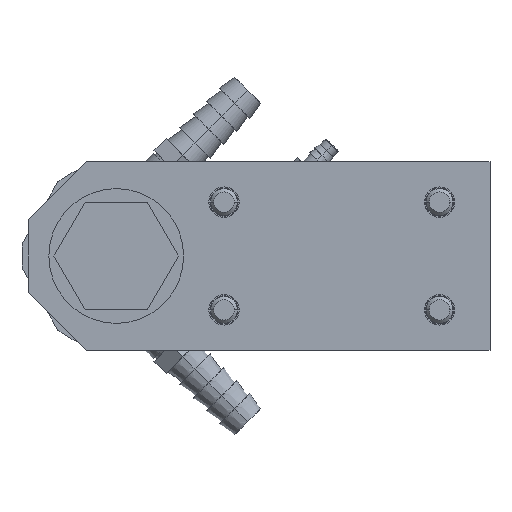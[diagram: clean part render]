
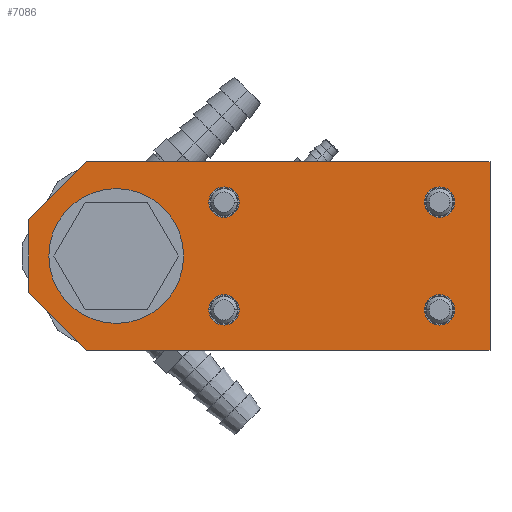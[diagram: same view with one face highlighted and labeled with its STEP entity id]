
A CAD part, left-side view. The second image highlights one B-rep face of the part: STEP entity #7086.
In plain terms, the highlighted planar face has unit normal (-1, 0, 0).
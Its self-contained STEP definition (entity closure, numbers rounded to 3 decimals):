
#6544=CARTESIAN_POINT('',(-3.312,-0.625,0.));
#6545=VERTEX_POINT('',#6544);
#6561=CARTESIAN_POINT('',(-3.312,0.625,0.));
#6562=VERTEX_POINT('',#6561);
#6569=CARTESIAN_POINT('',(-3.312,0.,0.));
#6570=DIRECTION('',(1.0,0.0,0.0));
#6571=DIRECTION('',(0.0,-1.0,0.0));
#6572=AXIS2_PLACEMENT_3D('',#6569,#6570,#6571);
#6573=CIRCLE('',#6572,0.625);
#6574=EDGE_CURVE('',#6545,#6562,#6573,.T.);
#6584=CARTESIAN_POINT('',(-3.312,-1.141,0.5));
#6585=VERTEX_POINT('',#6584);
#6594=CARTESIAN_POINT('',(-3.312,-0.859,0.5));
#6595=VERTEX_POINT('',#6594);
#6596=CARTESIAN_POINT('',(-3.312,-1.0,0.5));
#6597=DIRECTION('',(1.0,0.0,0.0));
#6598=DIRECTION('',(0.0,-1.0,0.0));
#6599=AXIS2_PLACEMENT_3D('',#6596,#6597,#6598);
#6600=CIRCLE('',#6599,0.141);
#6601=EDGE_CURVE('',#6595,#6585,#6600,.T.);
#6626=CARTESIAN_POINT('',(-3.312,-3.141,0.5));
#6627=VERTEX_POINT('',#6626);
#6636=CARTESIAN_POINT('',(-3.312,-2.859,0.5));
#6637=VERTEX_POINT('',#6636);
#6638=CARTESIAN_POINT('',(-3.312,-3.0,0.5));
#6639=DIRECTION('',(1.0,0.0,0.0));
#6640=DIRECTION('',(0.0,-1.0,0.0));
#6641=AXIS2_PLACEMENT_3D('',#6638,#6639,#6640);
#6642=CIRCLE('',#6641,0.141);
#6643=EDGE_CURVE('',#6637,#6627,#6642,.T.);
#6668=CARTESIAN_POINT('',(-3.312,-3.141,-0.5));
#6669=VERTEX_POINT('',#6668);
#6678=CARTESIAN_POINT('',(-3.312,-2.859,-0.5));
#6679=VERTEX_POINT('',#6678);
#6680=CARTESIAN_POINT('',(-3.312,-3.0,-0.5));
#6681=DIRECTION('',(1.0,0.0,0.0));
#6682=DIRECTION('',(0.0,-1.0,0.0));
#6683=AXIS2_PLACEMENT_3D('',#6680,#6681,#6682);
#6684=CIRCLE('',#6683,0.141);
#6685=EDGE_CURVE('',#6679,#6669,#6684,.T.);
#6710=CARTESIAN_POINT('',(-3.312,-1.141,-0.5));
#6711=VERTEX_POINT('',#6710);
#6720=CARTESIAN_POINT('',(-3.312,-0.859,-0.5));
#6721=VERTEX_POINT('',#6720);
#6722=CARTESIAN_POINT('',(-3.312,-1.0,-0.5));
#6723=DIRECTION('',(1.0,0.0,0.0));
#6724=DIRECTION('',(0.0,-1.0,0.0));
#6725=AXIS2_PLACEMENT_3D('',#6722,#6723,#6724);
#6726=CIRCLE('',#6725,0.141);
#6727=EDGE_CURVE('',#6721,#6711,#6726,.T.);
#6761=CARTESIAN_POINT('',(-3.312,-1.0,-0.5));
#6762=DIRECTION('',(1.0,0.0,0.0));
#6763=DIRECTION('',(0.0,-1.0,0.0));
#6764=AXIS2_PLACEMENT_3D('',#6761,#6762,#6763);
#6765=CIRCLE('',#6764,0.141);
#6766=EDGE_CURVE('',#6711,#6721,#6765,.T.);
#6785=CARTESIAN_POINT('',(-3.312,-3.0,-0.5));
#6786=DIRECTION('',(1.0,0.0,0.0));
#6787=DIRECTION('',(0.0,-1.0,0.0));
#6788=AXIS2_PLACEMENT_3D('',#6785,#6786,#6787);
#6789=CIRCLE('',#6788,0.141);
#6790=EDGE_CURVE('',#6669,#6679,#6789,.T.);
#6809=CARTESIAN_POINT('',(-3.312,-3.0,0.5));
#6810=DIRECTION('',(1.0,0.0,0.0));
#6811=DIRECTION('',(0.0,-1.0,0.0));
#6812=AXIS2_PLACEMENT_3D('',#6809,#6810,#6811);
#6813=CIRCLE('',#6812,0.141);
#6814=EDGE_CURVE('',#6627,#6637,#6813,.T.);
#6833=CARTESIAN_POINT('',(-3.312,-1.0,0.5));
#6834=DIRECTION('',(1.0,0.0,0.0));
#6835=DIRECTION('',(0.0,-1.0,0.0));
#6836=AXIS2_PLACEMENT_3D('',#6833,#6834,#6835);
#6837=CIRCLE('',#6836,0.141);
#6838=EDGE_CURVE('',#6585,#6595,#6837,.T.);
#6849=CARTESIAN_POINT('',(-3.312,0.,0.));
#6850=DIRECTION('',(1.0,0.0,0.0));
#6851=DIRECTION('',(0.0,-1.0,0.0));
#6852=AXIS2_PLACEMENT_3D('',#6849,#6850,#6851);
#6853=CIRCLE('',#6852,0.625);
#6854=EDGE_CURVE('',#6562,#6545,#6853,.T.);
#6882=CARTESIAN_POINT('',(-3.312,0.813,-0.337));
#6883=VERTEX_POINT('',#6882);
#6890=CARTESIAN_POINT('',(-3.312,0.813,0.337));
#6891=VERTEX_POINT('',#6890);
#6892=CARTESIAN_POINT('',(-3.312,0.813,0.337));
#6893=DIRECTION('',(0.0,0.0,-1.0));
#6894=VECTOR('',#6893,0.673);
#6895=LINE('',#6892,#6894);
#6896=EDGE_CURVE('',#6891,#6883,#6895,.T.);
#6920=CARTESIAN_POINT('',(-3.312,0.274,-0.875));
#6921=VERTEX_POINT('',#6920);
#6928=CARTESIAN_POINT('',(-3.312,0.813,-0.337));
#6929=DIRECTION('',(0.0,-0.707,-0.707));
#6930=VECTOR('',#6929,0.761);
#6931=LINE('',#6928,#6930);
#6932=EDGE_CURVE('',#6883,#6921,#6931,.T.);
#6952=CARTESIAN_POINT('',(-3.312,0.274,0.875));
#6953=VERTEX_POINT('',#6952);
#6954=CARTESIAN_POINT('',(-3.312,0.274,0.875));
#6955=DIRECTION('',(0.0,0.707,-0.707));
#6956=VECTOR('',#6955,0.761);
#6957=LINE('',#6954,#6956);
#6958=EDGE_CURVE('',#6953,#6891,#6957,.T.);
#6974=CARTESIAN_POINT('',(-3.312,-3.467,0.875));
#6975=VERTEX_POINT('',#6974);
#6976=CARTESIAN_POINT('',(-3.312,-3.467,-0.875));
#6977=VERTEX_POINT('',#6976);
#6978=CARTESIAN_POINT('',(-3.312,-3.467,0.875));
#6979=DIRECTION('',(0.0,0.0,-1.0));
#6980=VECTOR('',#6979,1.75);
#6981=LINE('',#6978,#6980);
#6982=EDGE_CURVE('',#6975,#6977,#6981,.T.);
#7014=CARTESIAN_POINT('',(-3.312,-3.467,-0.875));
#7015=DIRECTION('',(0.0,1.0,0.0));
#7016=VECTOR('',#7015,3.742);
#7017=LINE('',#7014,#7016);
#7018=EDGE_CURVE('',#6977,#6921,#7017,.T.);
#7036=CARTESIAN_POINT('',(-3.312,0.274,0.875));
#7037=DIRECTION('',(0.0,-1.0,0.0));
#7038=VECTOR('',#7037,3.742);
#7039=LINE('',#7036,#7038);
#7040=EDGE_CURVE('',#6953,#6975,#7039,.T.);
#7053=CARTESIAN_POINT('',(-3.312,-1.597,0.));
#7054=DIRECTION('',(1.0,0.0,0.0));
#7055=DIRECTION('',(0.0,-1.0,0.0));
#7056=AXIS2_PLACEMENT_3D('',#7053,#7054,#7055);
#7057=PLANE('',#7056);
#7058=ORIENTED_EDGE('',*,*,#6982,.F.);
#7059=ORIENTED_EDGE('',*,*,#7040,.F.);
#7060=ORIENTED_EDGE('',*,*,#6958,.T.);
#7061=ORIENTED_EDGE('',*,*,#6896,.T.);
#7062=ORIENTED_EDGE('',*,*,#6932,.T.);
#7063=ORIENTED_EDGE('',*,*,#7018,.F.);
#7064=EDGE_LOOP('',(#7058,#7059,#7060,#7061,#7062,#7063));
#7065=FACE_OUTER_BOUND('',#7064,.T.);
#7066=ORIENTED_EDGE('',*,*,#6727,.T.);
#7067=ORIENTED_EDGE('',*,*,#6766,.T.);
#7068=EDGE_LOOP('',(#7066,#7067));
#7069=FACE_BOUND('',#7068,.T.);
#7070=ORIENTED_EDGE('',*,*,#6685,.T.);
#7071=ORIENTED_EDGE('',*,*,#6790,.T.);
#7072=EDGE_LOOP('',(#7070,#7071));
#7073=FACE_BOUND('',#7072,.T.);
#7074=ORIENTED_EDGE('',*,*,#6643,.T.);
#7075=ORIENTED_EDGE('',*,*,#6814,.T.);
#7076=EDGE_LOOP('',(#7074,#7075));
#7077=FACE_BOUND('',#7076,.T.);
#7078=ORIENTED_EDGE('',*,*,#6601,.T.);
#7079=ORIENTED_EDGE('',*,*,#6838,.T.);
#7080=EDGE_LOOP('',(#7078,#7079));
#7081=FACE_BOUND('',#7080,.T.);
#7082=ORIENTED_EDGE('',*,*,#6854,.T.);
#7083=ORIENTED_EDGE('',*,*,#6574,.T.);
#7084=EDGE_LOOP('',(#7082,#7083));
#7085=FACE_BOUND('',#7084,.T.);
#7086=ADVANCED_FACE('',(#7065,#7069,#7073,#7077,#7081,#7085),#7057,.F.);
